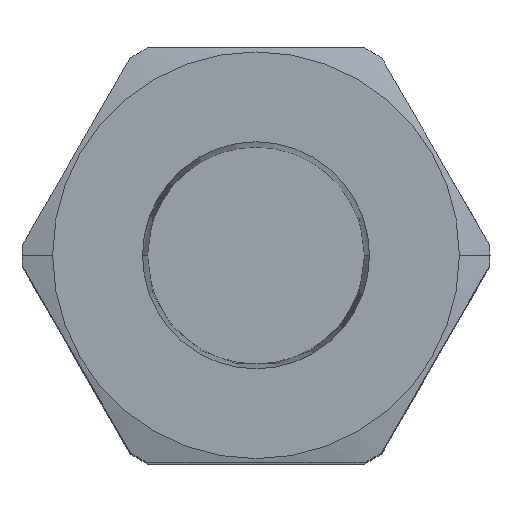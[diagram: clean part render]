
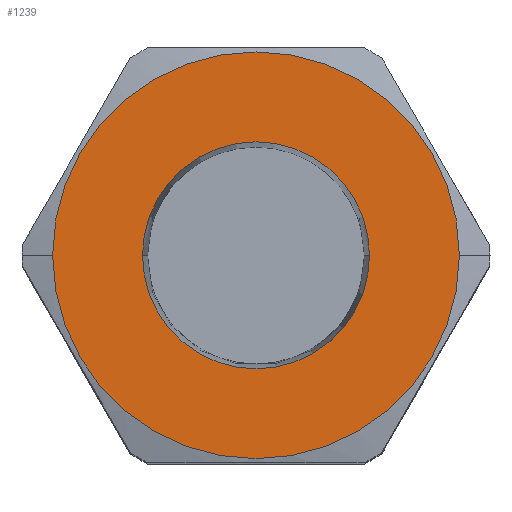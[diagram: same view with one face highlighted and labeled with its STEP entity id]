
A CAD part, top view. The second image highlights one B-rep face of the part: STEP entity #1239.
In plain terms, the highlighted planar face has unit normal (0, 0, 1).
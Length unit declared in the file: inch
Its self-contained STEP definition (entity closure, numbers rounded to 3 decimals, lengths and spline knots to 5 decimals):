
#62 = CARTESIAN_POINT ( 'NONE',  ( 0., 0., 3.375 ) ) ;
#63 = DIRECTION ( 'NONE',  ( 0., 0., 1. ) ) ;
#64 = DIRECTION ( 'NONE',  ( 1., 0., 0. ) ) ;
#207 = CARTESIAN_POINT ( 'NONE',  ( 0.8575, 0., 3.375 ) ) ;
#215 = CARTESIAN_POINT ( 'NONE',  ( -0.47867, 0., 3.375 ) ) ;
#225 = CARTESIAN_POINT ( 'NONE',  ( 0.47867, 0., 3.375 ) ) ;
#284 = AXIS2_PLACEMENT_3D ( 'NONE', #903, #911, #912 ) ;
#324 = AXIS2_PLACEMENT_3D ( 'NONE', #62, #63, #64 ) ;
#328 = CIRCLE ( 'NONE', #324, 0.47867 ) ;
#334 = AXIS2_PLACEMENT_3D ( 'NONE', #1292, #1293, #1294 ) ;
#336 = AXIS2_PLACEMENT_3D ( 'NONE', #564, #565, #566 ) ;
#337 = CIRCLE ( 'NONE', #334, 0.47867 ) ;
#338 = CIRCLE ( 'NONE', #336, 0.8575 ) ;
#391 = AXIS2_PLACEMENT_3D ( 'NONE', #1144, #1145, #1146 ) ;
#403 = CIRCLE ( 'NONE', #391, 0.8575 ) ;
#564 = CARTESIAN_POINT ( 'NONE',  ( 0., 0., 3.375 ) ) ;
#565 = DIRECTION ( 'NONE',  ( 0., 0., -1. ) ) ;
#566 = DIRECTION ( 'NONE',  ( -1., 0., 0. ) ) ;
#601 = CARTESIAN_POINT ( 'NONE',  ( -0.8575, 0., 3.375 ) ) ;
#640 = VERTEX_POINT ( 'NONE', #207 ) ;
#648 = VERTEX_POINT ( 'NONE', #215 ) ;
#658 = VERTEX_POINT ( 'NONE', #225 ) ;
#676 = EDGE_LOOP ( 'NONE', ( #1412, #1411 ) ) ;
#681 = EDGE_LOOP ( 'NONE', ( #1410, #1409 ) ) ;
#736 = VERTEX_POINT ( 'NONE', #601 ) ;
#807 = EDGE_CURVE ( 'NONE', #736, #640, #403, .T. ) ;
#903 = CARTESIAN_POINT ( 'NONE',  ( 1.01036, 0., 3.375 ) ) ;
#907 = FACE_BOUND ( 'NONE', #676, .T. ) ;
#908 = FACE_OUTER_BOUND ( 'NONE', #681, .T. ) ;
#909 = PLANE ( 'NONE',  #284 ) ;
#911 = DIRECTION ( 'NONE',  ( 0., 0., 1. ) ) ;
#912 = DIRECTION ( 'NONE',  ( 1., 0., 0. ) ) ;
#1144 = CARTESIAN_POINT ( 'NONE',  ( 0., 0., 3.375 ) ) ;
#1145 = DIRECTION ( 'NONE',  ( 0., 0., -1. ) ) ;
#1146 = DIRECTION ( 'NONE',  ( -1., 0., 0. ) ) ;
#1182 = EDGE_CURVE ( 'NONE', #640, #736, #338, .T. ) ;
#1189 = EDGE_CURVE ( 'NONE', #658, #648, #337, .T. ) ;
#1206 = EDGE_CURVE ( 'NONE', #648, #658, #328, .T. ) ;
#1239 = ADVANCED_FACE ( 'NONE', ( #907, #908 ), #909, .T. ) ;
#1292 = CARTESIAN_POINT ( 'NONE',  ( 0., 0., 3.375 ) ) ;
#1293 = DIRECTION ( 'NONE',  ( 0., 0., 1. ) ) ;
#1294 = DIRECTION ( 'NONE',  ( 1., 0., 0. ) ) ;
#1409 = ORIENTED_EDGE ( 'NONE', *, *, #1182, .F. ) ;
#1410 = ORIENTED_EDGE ( 'NONE', *, *, #807, .F. ) ;
#1411 = ORIENTED_EDGE ( 'NONE', *, *, #1206, .F. ) ;
#1412 = ORIENTED_EDGE ( 'NONE', *, *, #1189, .F. ) ;
